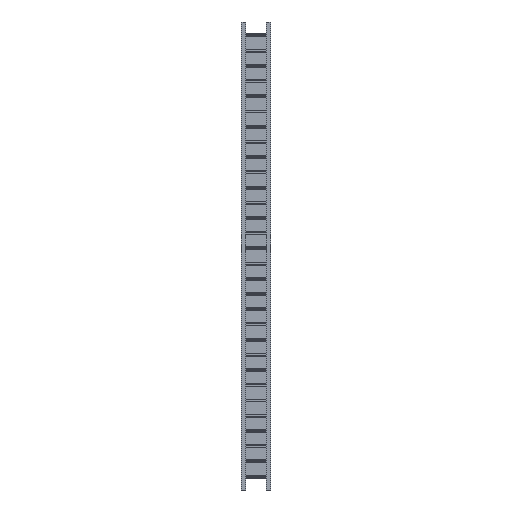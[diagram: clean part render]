
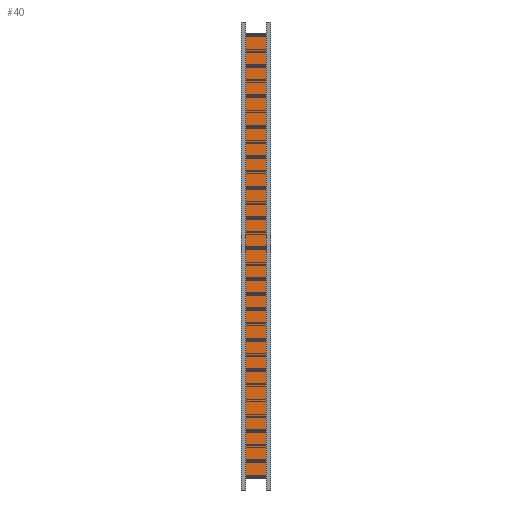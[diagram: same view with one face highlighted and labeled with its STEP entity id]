
A CAD part, front view. The second image highlights one B-rep face of the part: STEP entity #40.
In plain terms, the highlighted planar face has unit normal (0, 1, 0).
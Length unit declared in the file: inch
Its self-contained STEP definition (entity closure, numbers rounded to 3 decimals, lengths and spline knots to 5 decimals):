
#1=DIRECTION('',(0.,0.,-1.));
#2=VECTOR('',#1,226.2);
#3=CARTESIAN_POINT('',(-6.,-1.,-6.9));
#4=LINE('',#3,#2);
#5=DIRECTION('',(1.,0.,0.));
#6=VECTOR('',#5,12.);
#7=CARTESIAN_POINT('',(-6.,-1.,-233.1));
#8=LINE('',#7,#6);
#9=DIRECTION('',(0.,0.,1.));
#10=VECTOR('',#9,226.2);
#11=CARTESIAN_POINT('',(6.,-1.,-233.1));
#12=LINE('',#11,#10);
#13=DIRECTION('',(-1.,0.,0.));
#14=VECTOR('',#13,12.);
#15=CARTESIAN_POINT('',(6.,-1.,-6.9));
#16=LINE('',#15,#14);
#17=CARTESIAN_POINT('',(-6.,-1.,-233.1));
#18=CARTESIAN_POINT('',(-6.,-1.,-6.9));
#19=VERTEX_POINT('',#17);
#20=VERTEX_POINT('',#18);
#21=CARTESIAN_POINT('',(6.,-1.,-6.9));
#22=VERTEX_POINT('',#21);
#23=CARTESIAN_POINT('',(6.,-1.,-233.1));
#24=VERTEX_POINT('',#23);
#25=CARTESIAN_POINT('',(0.,-1.,0.));
#26=DIRECTION('',(0.,1.,0.));
#27=DIRECTION('',(1.,0.,0.));
#28=AXIS2_PLACEMENT_3D('',#25,#26,#27);
#29=PLANE('',#28);
#31=ORIENTED_EDGE('',*,*,#30,.T.);
#33=ORIENTED_EDGE('',*,*,#32,.T.);
#35=ORIENTED_EDGE('',*,*,#34,.T.);
#37=ORIENTED_EDGE('',*,*,#36,.T.);
#38=EDGE_LOOP('',(#31,#33,#35,#37));
#39=FACE_OUTER_BOUND('',#38,.F.);
#40=ADVANCED_FACE('',(#39),#29,.T.);
#30=EDGE_CURVE('',#20,#19,#4,.T.);
#32=EDGE_CURVE('',#19,#24,#8,.T.);
#34=EDGE_CURVE('',#24,#22,#12,.T.);
#36=EDGE_CURVE('',#22,#20,#16,.T.);
